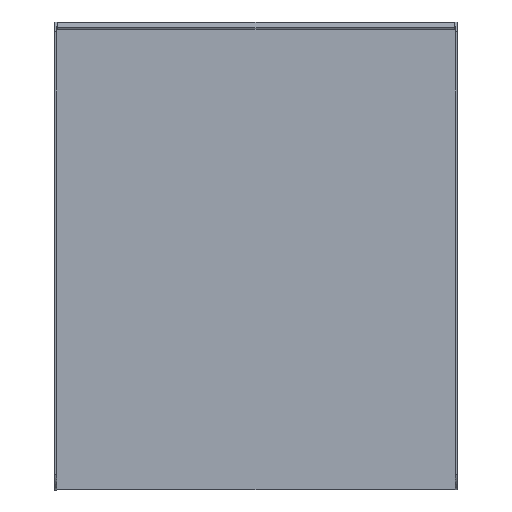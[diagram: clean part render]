
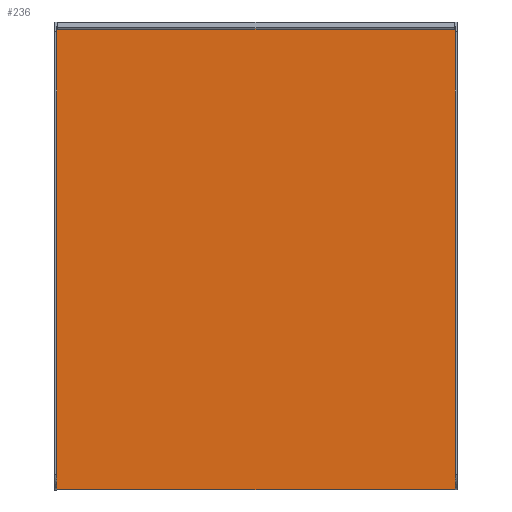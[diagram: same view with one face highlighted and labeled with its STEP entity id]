
A CAD part, front view. The second image highlights one B-rep face of the part: STEP entity #236.
In plain terms, the highlighted planar face has unit normal (0, -1, 0).
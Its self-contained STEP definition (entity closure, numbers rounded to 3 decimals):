
#63 = CARTESIAN_POINT ( 'NONE',  ( -347., 0., 297. ) ) ;
#147 = ORIENTED_EDGE ( 'NONE', *, *, #360, .F. ) ;
#177 = CARTESIAN_POINT ( 'NONE',  ( 347., 0., 297. ) ) ;
#208 = LINE ( 'NONE', #738, #1602 ) ;
#221 = CARTESIAN_POINT ( 'NONE',  ( -347., 0., 297. ) ) ;
#236 = ADVANCED_FACE ( 'NONE', ( #475 ), #1436, .T. ) ;
#248 = DIRECTION ( 'NONE',  ( 0., 0., -1. ) ) ;
#250 = CARTESIAN_POINT ( 'NONE',  ( 347., 0., 297. ) ) ;
#318 = DIRECTION ( 'NONE',  ( 1., 0., 0. ) ) ;
#329 = EDGE_LOOP ( 'NONE', ( #147, #338, #991, #471 ) ) ;
#338 = ORIENTED_EDGE ( 'NONE', *, *, #1464, .F. ) ;
#360 = EDGE_CURVE ( 'NONE', #779, #624, #1166, .T. ) ;
#364 = DIRECTION ( 'NONE',  ( 0., 0., -1. ) ) ;
#450 = CARTESIAN_POINT ( 'NONE',  ( -347., 0., -297. ) ) ;
#471 = ORIENTED_EDGE ( 'NONE', *, *, #1016, .F. ) ;
#475 = FACE_OUTER_BOUND ( 'NONE', #329, .T. ) ;
#484 = LINE ( 'NONE', #221, #1189 ) ;
#500 = DIRECTION ( 'NONE',  ( -1., 0., 0. ) ) ;
#509 = CARTESIAN_POINT ( 'NONE',  ( -347., 0., -297. ) ) ;
#534 = AXIS2_PLACEMENT_3D ( 'NONE', #1526, #741, #248 ) ;
#624 = VERTEX_POINT ( 'NONE', #946 ) ;
#627 = LINE ( 'NONE', #509, #1574 ) ;
#670 = VECTOR ( 'NONE', #364, 1000. ) ;
#738 = CARTESIAN_POINT ( 'NONE',  ( -347., 0., 297. ) ) ;
#741 = DIRECTION ( 'NONE',  ( 0., -1., 0. ) ) ;
#779 = VERTEX_POINT ( 'NONE', #177 ) ;
#946 = CARTESIAN_POINT ( 'NONE',  ( 347., 0., -297. ) ) ;
#991 = ORIENTED_EDGE ( 'NONE', *, *, #1381, .F. ) ;
#1016 = EDGE_CURVE ( 'NONE', #624, #1590, #627, .T. ) ;
#1107 = DIRECTION ( 'NONE',  ( 0., 0., 1. ) ) ;
#1166 = LINE ( 'NONE', #250, #670 ) ;
#1189 = VECTOR ( 'NONE', #318, 1000. ) ;
#1338 = VERTEX_POINT ( 'NONE', #63 ) ;
#1381 = EDGE_CURVE ( 'NONE', #1590, #1338, #208, .T. ) ;
#1436 = PLANE ( 'NONE',  #534 ) ;
#1464 = EDGE_CURVE ( 'NONE', #1338, #779, #484, .T. ) ;
#1526 = CARTESIAN_POINT ( 'NONE',  ( 0., 0., 0. ) ) ;
#1574 = VECTOR ( 'NONE', #500, 1000. ) ;
#1590 = VERTEX_POINT ( 'NONE', #450 ) ;
#1602 = VECTOR ( 'NONE', #1107, 1000. ) ;
